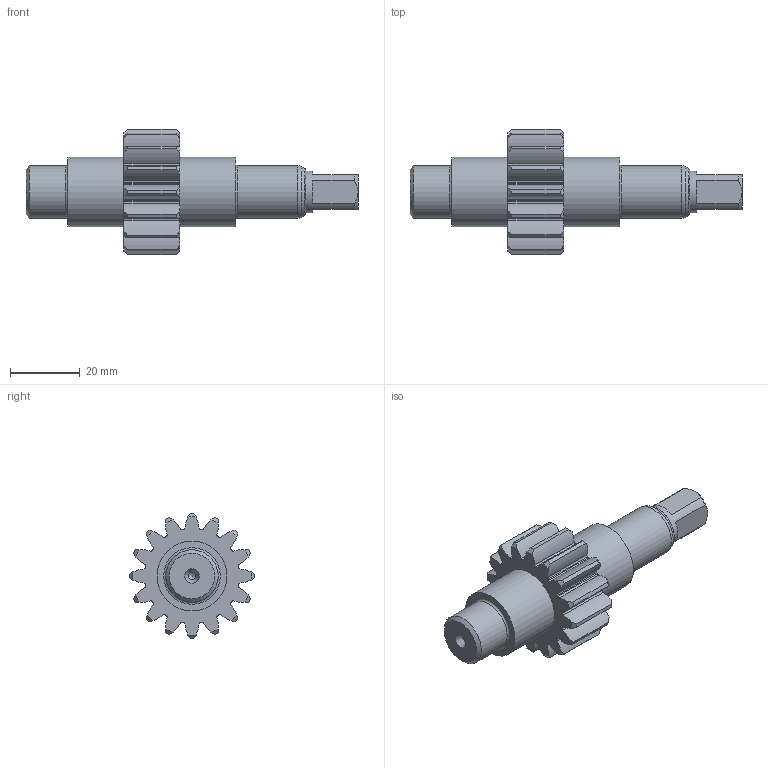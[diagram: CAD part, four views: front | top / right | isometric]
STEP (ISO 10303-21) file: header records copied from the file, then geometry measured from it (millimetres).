
FILE_DESCRIPTION(/* description */ (''),/* implementation_level */ '2;1');
FILE_NAME(/* name */ '',/* time_stamp */ '2025-05-27T17:26:33+09:00',/* author */ ('jhkim'),/* organization */ (''),/* preprocessor_version */ 'ST-DEVELOPER v20.1',/* originating_system */ 'Autodesk Inventor 2026',/* authorisation */ '');
FILE_SCHEMA (('AUTOMOTIVE_DESIGN { 1 0 10303 214 3 1 1 }'));
Length unit declared in the file: millimetre
Products named in the file (1): 피니언 축
Bounding box: 95 x 36 x 36 mm (x, y, z)
Volume: 29778.5 mm3; surface area: 8612.5 mm2
Topology: 1 solids, 1 shells, 164 faces, 462 edges, 305 vertices
Faces by surface type: cylinder 103, cone 42, plane 15, torus 4
Full cylindrical faces by diameter (mm): 2 x2, 12 x1, 15 x2, 20 x2
Entity records: 5530 total; most frequent: CARTESIAN_POINT 1138, DIRECTION 985, ORIENTED_EDGE 920, EDGE_CURVE 460, AXIS2_PLACEMENT_3D 432, VERTEX_POINT 305, CIRCLE 267, EDGE_LOOP 171
